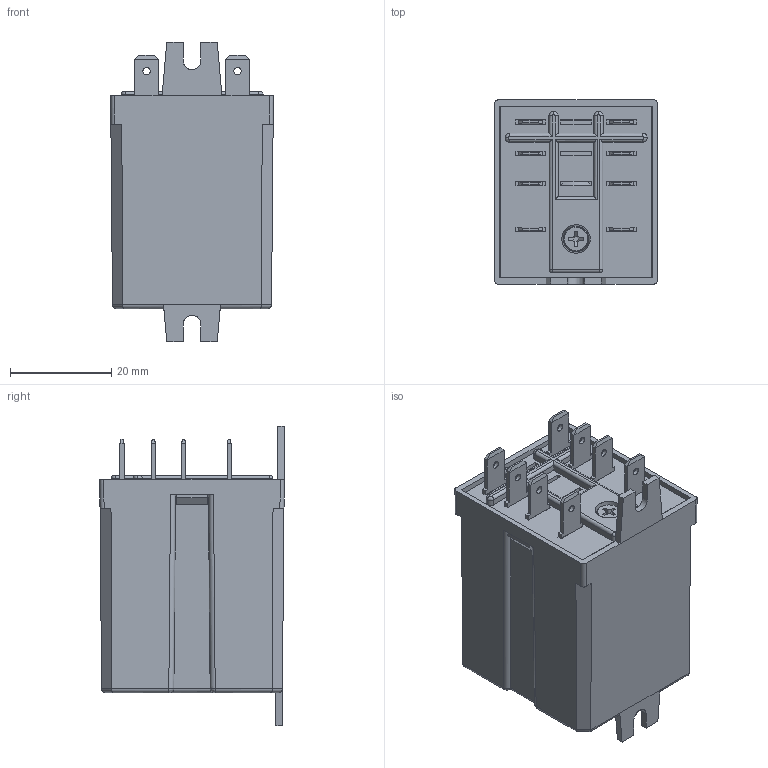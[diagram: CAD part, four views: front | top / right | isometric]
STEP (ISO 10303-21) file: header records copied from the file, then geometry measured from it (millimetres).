
FILE_DESCRIPTION(('STEP AP214'),'2;1');
FILE_NAME('60_62---catalogo.stp','2010-12-03T13:57:05',(''),(''),'2007.1.106','THINKDESIGN','');
FILE_SCHEMA(('AUTOMOTIVE_DESIGN'));
Length unit declared in the file: millimetre
Products named in the file (1): None
Bounding box: 32.2 x 36.5 x 59.2 mm (x, y, z)
Surface area: 12139.3 mm2 (no closed solid volume)
Topology: 0 solids, 0 shells, 310 faces, 1622 edges, 1649 vertices
Faces by surface type: plane 192, cylinder 63, bspline 55
Full cylindrical faces by diameter (mm): 1.45 x8, 2 x1, 5 x1
Entity records: 18716 total; most frequent: CARTESIAN_POINT 6720, DIRECTION 1880, COMPOSITE_CURVE_SEGMENT 1580, TRIMMED_CURVE 1290, VECTOR 1250, LINE 1250, STYLED_ITEM 350, PRESENTATION_STYLE_ASSIGNMENT 350
